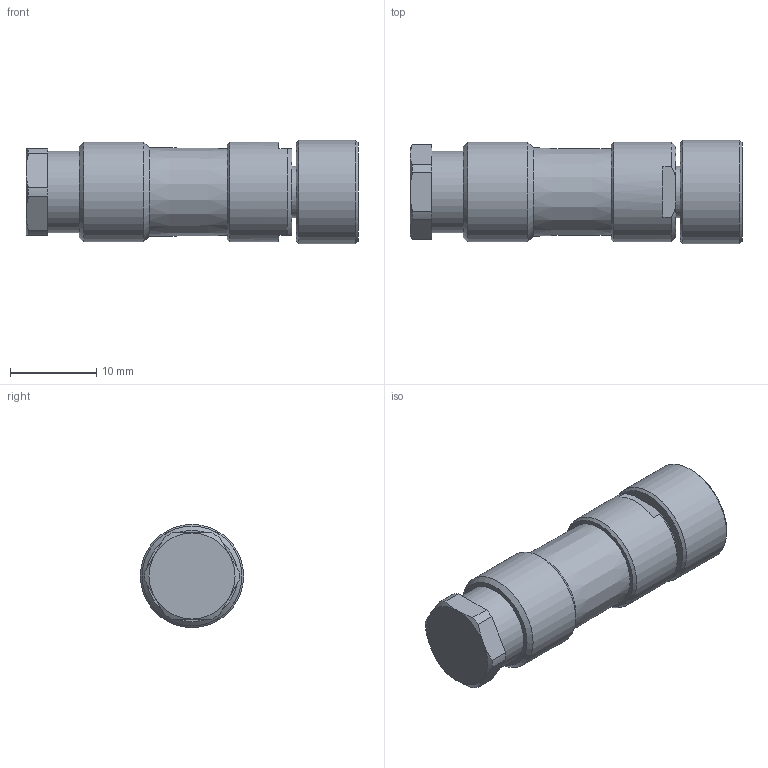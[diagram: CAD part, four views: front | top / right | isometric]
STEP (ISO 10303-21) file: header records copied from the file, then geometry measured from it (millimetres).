
FILE_DESCRIPTION(/* description */ (''),/* implementation_level */ '2;1');
FILE_NAME(/* name */ '99-3400-00-04_bg.stp',/* time_stamp */ '2009-03-27T08:49:56+01:00',/* author */ (''),/* organization */ (''),/* preprocessor_version */ 'ST-DEVELOPER v11',/* originating_system */ 'UGS - NX 5.0',/* authorisation */ '');
FILE_SCHEMA (('CONFIG_CONTROL_DESIGN'));
Length unit declared in the file: millimetre
Products named in the file (1): kbor7EDE5luu
Bounding box: 38.6 x 12 x 12 mm (x, y, z)
Volume: 3561.9 mm3; surface area: 1973.6 mm2
Topology: 1 solids, 1 shells, 90 faces, 214 edges, 139 vertices
Faces by surface type: plane 38, cone 23, cylinder 17, bspline 6, extrusion 6
Full cylindrical faces by diameter (mm): 1.1 x3, 5.65 x1, 6 x1, 6.917 x1, 8.1 x1, 9.5 x1, 11.6 x2, 12 x1
Entity records: 2698 total; most frequent: CARTESIAN_POINT 760, DIRECTION 376, ORIENTED_EDGE 342, EDGE_CURVE 171, AXIS2_PLACEMENT_3D 166, EDGE_LOOP 130, VERTEX_POINT 126, ADVANCED_FACE 90
